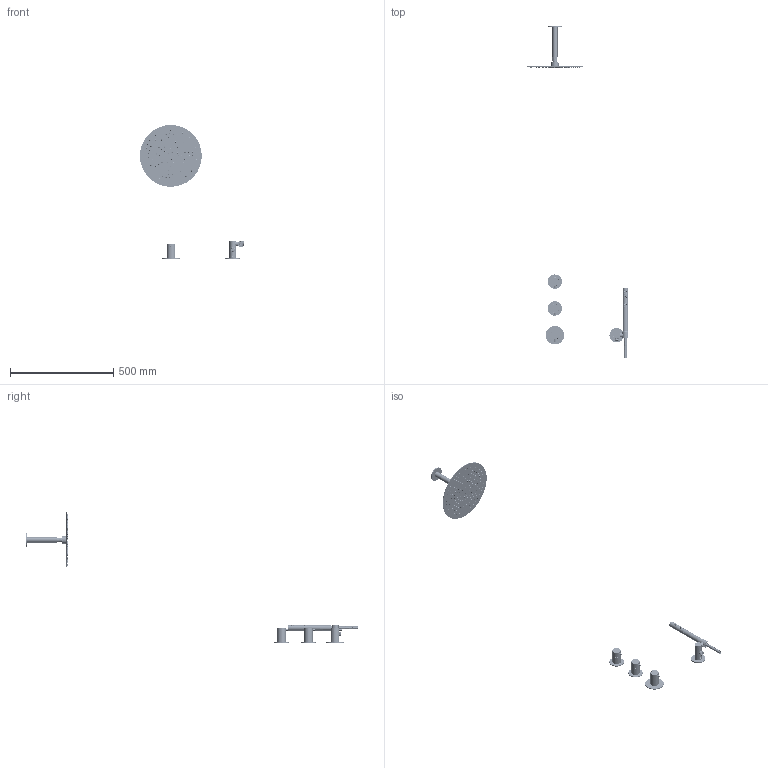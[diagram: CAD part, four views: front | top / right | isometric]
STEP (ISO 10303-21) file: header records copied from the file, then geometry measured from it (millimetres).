
FILE_DESCRIPTION((''),'2;1');
FILE_NAME('57064--_ASM','2025-03-21T12:20:25',('simi1'),(''),'CREO PARAMETRIC BY PTC INC, 2022244','CREO PARAMETRIC BY PTC INC, 2022244','');
FILE_SCHEMA(('CONFIG_CONTROL_DESIGN'));
Products named in the file (98): 46372--; 4396500; 4668000; 46373--_ASM; 44978--; 4642300; 4498000; 46498--_ASM; 46022--; 4600600; 1904300; 44986--; 4498800; 44989--_ASM; 4648800; 4642285; 76709--00_SUB01_ASM; 46493--; 4636100; 46494--_ASM; 4498500; 4653500; 46499--_ASM; 44979--; 44987--; 44990--_ASM; 4498300; 4625100; 76710--00_SUB01_ASM; 4443500; 4424300; 44246--_ASM; 46627--; 4443300; 76618--00_ASM; P32600-001_2; SPRAYPLATE; P32500-015_7; SPRAYPLATE_ASSY_ASM; P10100-003_2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
Assembly tree (273 placements, depth 6):
  57064--_ASM
    76709--00_SUB01_ASM
      46373--_ASM
        46372--
        4396500
        4668000
      46498--_ASM
        44978--
        4642300
        4498000
      44989--_ASM
        46022--
        4600600
        1904300
        44986--
        4498800
      4648800
      4642285
    76710--00_SUB01_ASM  x2
      46494--_ASM
        46493--
        4396500
        4636100
      46499--_ASM
        44978--
        4498500
        4653500
      44990--_ASM
        44979--
        4600600
        44987--
        4498800
      4498300
      4625100
    76618--00_ASM
      44246--_ASM
        4443500
        4424300
      46627--
      4443300
    91684--00_ASM
      46672--_ASM
        P42702_ASM_21_ASM
          SPRAYPLATE_ASSY_ASM
            P32600-001_2
            SPRAYPLATE
            P32500-015_7  x170
          F200-011_ASM_2_ASM
            P10100-003_2
            P24800-010_2
            30100069_2
          T10367_ASM_1_ASM
            T10364-001_34
            P26500-017_4
    48756--00_ASM
      46883--_ASM
        4420585
        4449100
        46618--
        46884--
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Bounding box: 505.28 x 1610.55 x 650.5 mm (x, y, z)
Volume: 534154.4 mm3; surface area: 660869.7 mm2
Topology: 254 solids, 254 shells, 16699 faces, 45768 edges, 30791 vertices
Faces by surface type: plane 6852, cylinder 4615, torus 2626, cone 1916, bspline 565, sphere 116, revolution 6, extrusion 3
Entity records: 293057 total; most frequent: CARTESIAN_POINT 105973, ORIENTED_EDGE 40164, DIRECTION 36539, EDGE_CURVE 20082, VERTEX_POINT 13159, AXIS2_PLACEMENT_3D 12338, VECTOR 11857, LINE 11854
